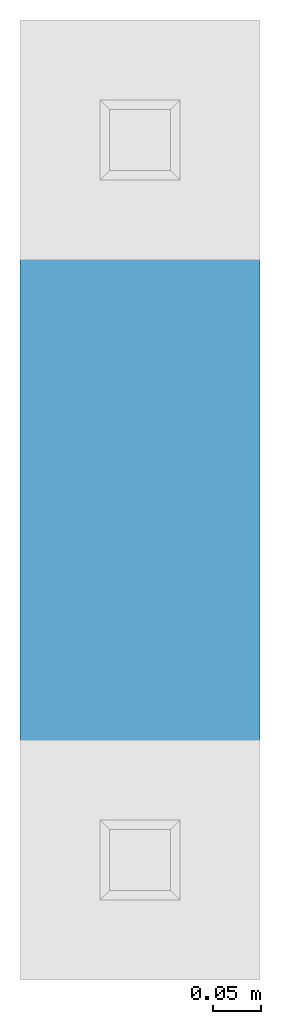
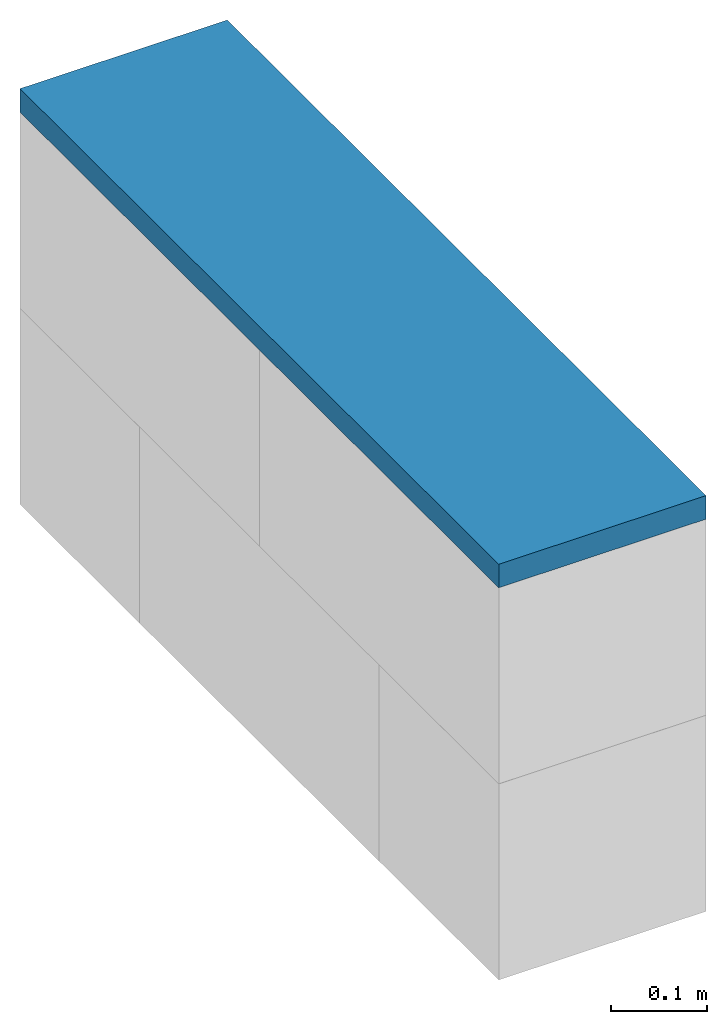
# One storey, incomplete: 1 wall.
"""IFC4 building model written with IfcOpenShell, lengths in centimetres."""

import ifcopenshell
import ifcopenshell.guid

model = None  # the IFC model being written
_history = None  # IfcOwnerHistory: only IFC2X3 demands one
_inside = {}  # id of a spatial element -> (the spatial element, [elements in it])
_under = {}  # id of a project, library or spatial element -> (it, [spatial elements below it])
_declared = {}  # id of a project -> (the project, [libraries it declares])
_typed = {}  # id of a type object -> (the type object, [elements of that type])
_made_of = {}  # id of a material, layer set ... -> (it, [elements and type objects made of it])


def new_model(schema):
    """Start an empty IFC model of exactly this schema.

    Asked for "IFC4X3", IfcOpenShell would pick the latest addendum, in which some entities
    have other attributes; the version numbers below select the first issue.
    IFC2X3 requires an IfcOwnerHistory on every rooted entity: one is made here for all.
    """
    global model, _history
    if schema == "IFC4X3":
        model = ifcopenshell.file(schema_version=(4, 3, 0, 0))
    else:
        model = ifcopenshell.file(schema=schema)
    _inside.clear()
    _under.clear()
    _declared.clear()
    _typed.clear()
    _made_of.clear()
    _history = None
    if model.schema == "IFC2X3":
        org = make("IfcOrganization", Name="unknown")
        user = make(
            "IfcPersonAndOrganization",
            ThePerson=make("IfcPerson", FamilyName="unknown"),
            TheOrganization=org,
        )
        app = make(
            "IfcApplication",
            ApplicationDeveloper=org,
            Version="unknown",
            ApplicationFullName="unknown",
            ApplicationIdentifier="unknown",
        )
        _history = make(
            "IfcOwnerHistory",
            OwningUser=user,
            OwningApplication=app,
            ChangeAction="ADDED",
            CreationDate=0,
        )
    return model


def make(cls, **values):
    """One entity of the class cls with the attributes given. An attribute that is None is left unset."""
    return model.create_entity(
        cls, **{name: value for name, value in values.items() if value is not None}
    )


def entity(cls, *values):
    """Any entity or typed value of the class cls, its attributes in the order of the schema. None: left unset."""
    e = model.create_entity(cls)
    for i, value in enumerate(values):
        if value is not None:
            e[i] = value
    return e


def rooted(cls, **values):
    """An entity with a GlobalId (a new one), such as an element, a storey or a relation."""
    return make(cls, GlobalId=ifcopenshell.guid.new(), OwnerHistory=_history, **values)


def si_unit(unit_type, name, prefix=None):
    """IfcSIUnit, for example si_unit("LENGTHUNIT", "METRE", prefix="MILLI")."""
    return make("IfcSIUnit", UnitType=unit_type, Prefix=prefix, Name=name)


def converted_unit(unit_type, name, factor, base, dimensions=None, offset=None):
    """IfcConversionBasedUnit, such as the inch: factor (a typed value) times the base unit."""
    return make(
        "IfcConversionBasedUnit"
        if offset is None
        else "IfcConversionBasedUnitWithOffset",
        ConversionOffset=offset,
        Dimensions=None
        if dimensions is None
        else entity("IfcDimensionalExponents", *dimensions),
        UnitType=unit_type,
        Name=name,
        ConversionFactor=make(
            "IfcMeasureWithUnit", ValueComponent=factor, UnitComponent=base
        ),
    )


def assignment(units):
    """IfcUnitAssignment: the units of a project."""
    return None if units is None else make("IfcUnitAssignment", Units=units)


def point(xyz):
    """IfcCartesianPoint."""
    return None if xyz is None else make("IfcCartesianPoint", Coordinates=xyz)


def direction(xyz):
    """IfcDirection."""
    return None if xyz is None else make("IfcDirection", DirectionRatios=xyz)


def frame(location, z_axis=None, x_axis=None):
    """IfcAxis2Placement3D, a coordinate frame: its origin and axes. An axis left out is left unset."""
    return make(
        "IfcAxis2Placement3D",
        Location=point(location),
        Axis=direction(z_axis),
        RefDirection=direction(x_axis),
    )


def origin():
    """The frame at (0, 0, 0) with its axes left unset."""
    return frame((0.0, 0.0, 0.0))


def place(relative_to, where):
    """IfcLocalPlacement: puts the frame where relative to a parent placement (None: the world)."""
    return make(
        "IfcLocalPlacement", PlacementRelTo=relative_to, RelativePlacement=where
    )


def context(
    kind, dimensions, precision=None, world=None, true_north=None, identifier=None
):
    """IfcGeometricRepresentationContext, for example the 3D "Model" context."""
    return make(
        "IfcGeometricRepresentationContext",
        ContextIdentifier=identifier,
        ContextType=kind,
        CoordinateSpaceDimension=dimensions,
        Precision=precision,
        WorldCoordinateSystem=world,
        TrueNorth=true_north,
    )


def subcontext(parent, identifier, kind, view, scale=None):
    """IfcGeometricRepresentationSubContext, for example "Body" below "Model"."""
    return make(
        "IfcGeometricRepresentationSubContext",
        ContextIdentifier=identifier,
        ContextType=kind,
        ParentContext=parent,
        TargetScale=scale,
        TargetView=view,
    )


def project(units=None, contexts=None):
    """IfcProject with its units and contexts."""
    return rooted(
        "IfcProject",
        Name="project",
        RepresentationContexts=contexts,
        UnitsInContext=assignment(units),
    )


def spatial(cls, under=None, at=None, **own):
    """A site, building, storey or space (cls), placed at a placement, below another one or the project."""
    s = rooted(cls, ObjectPlacement=at, **own)
    if under is not None:
        _under.setdefault(under.id(), (under, []))[1].append(s)
    return s


def point_list(points):
    """IfcCartesianPointList2D or 3D."""
    cls = (
        "IfcCartesianPointList2D" if len(points[0]) == 2 else "IfcCartesianPointList3D"
    )
    return make(cls, CoordList=points)


def indexed_curve(points, segments=None, self_intersect=None):
    """IfcIndexedPolyCurve: lines and arcs through numbered points (the first is 1)."""
    return make(
        "IfcIndexedPolyCurve",
        Points=point_list(points),
        Segments=segments,
        SelfIntersect=self_intersect,
    )


def outline(outer, holes=None, kind="AREA"):
    """IfcArbitraryClosedProfileDef: a profile drawn as a closed curve; with holes, ...WithVoids."""
    if holes is None:
        return make("IfcArbitraryClosedProfileDef", ProfileType=kind, OuterCurve=outer)
    return make(
        "IfcArbitraryProfileDefWithVoids",
        ProfileType=kind,
        OuterCurve=outer,
        InnerCurves=holes,
    )


def extrude(swept, where, along, depth):
    """IfcExtrudedAreaSolid: the profile swept, set in the frame where, extruded along a direction by depth."""
    return make(
        "IfcExtrudedAreaSolid",
        SweptArea=swept,
        Position=where,
        ExtrudedDirection=direction(along),
        Depth=depth,
    )


def shape(context_of_items, identifier, shape_type, items):
    """IfcShapeRepresentation: the items that make up one representation, for example the "Body"."""
    return make(
        "IfcShapeRepresentation",
        ContextOfItems=context_of_items,
        RepresentationIdentifier=identifier,
        RepresentationType=shape_type,
        Items=items,
    )


def material(Name=None, Category=None):
    """IfcMaterial."""
    return make("IfcMaterial", Name=Name, Category=Category)


def made_of(thing, what):
    """Note that an element or type object is made of a material, layer set ...; save() writes the relation."""
    if what is not None:
        _made_of.setdefault(what.id(), (what, []))[1].append(thing)
    return thing


def type_object(cls, material=None, **own):
    """A type object (cls), such as IfcWallType, which elements share."""
    return made_of(rooted(cls, **own), material)


def element(
    cls,
    number,
    at=None,
    inside=None,
    cuts=None,
    type_object=None,
    material=None,
    context=None,
    identifier="Body",
    shape_type=None,
    held_by="IfcProductDefinitionShape",
    body=None,
    shapes=None,
    **own,
):
    """One element of the class cls, such as IfcWall. Its Tag is "e" and its number.

    at: its placement. inside: the storey or other place that contains it. cuts: it is an
    opening in that element (IfcRelVoidsElement). A single representation is given by context,
    identifier, shape_type and body (its items); several are given by shapes. held_by: the class
    of the entity that holds the representations. save() writes the other relations.
    """
    e = rooted(cls, Tag="e%d" % number, ObjectPlacement=at, **own)
    if body is not None:
        shapes = [shape(context, identifier, shape_type, body)]
    if shapes is not None:
        e.Representation = make(held_by, Representations=shapes)
    if inside is not None:
        _inside.setdefault(inside.id(), (inside, []))[1].append(e)
    if cuts is not None:
        rooted(
            "IfcRelVoidsElement", RelatingBuildingElement=cuts, RelatedOpeningElement=e
        )
    if type_object is not None:
        _typed.setdefault(type_object.id(), (type_object, []))[1].append(e)
    return made_of(e, material)


def aggregate(whole, parts):
    """IfcRelAggregates: a whole, such as a stair, and the parts it consists of."""
    return rooted("IfcRelAggregates", RelatingObject=whole, RelatedObjects=parts)


def save(model, path):
    """Write the relations noted so far, then the file.

    IfcRelAggregates (storeys below a building ...), IfcRelContainedInSpatialStructure (elements
    in a storey), IfcRelDefinesByType, IfcRelAssociatesMaterial and IfcRelDeclares: one each for
    every whole, place, type object, material and project.
    """
    for whole, parts in _under.values():
        aggregate(whole, parts)
    for where, things in _inside.values():
        rooted(
            "IfcRelContainedInSpatialStructure",
            RelatedElements=things,
            RelatingStructure=where,
        )
    for kind, things in _typed.values():
        rooted("IfcRelDefinesByType", RelatedObjects=things, RelatingType=kind)
    for what, things in _made_of.values():
        rooted("IfcRelAssociatesMaterial", RelatedObjects=things, RelatingMaterial=what)
    for by, libraries in _declared.values():
        rooted("IfcRelDeclares", RelatingContext=by, RelatedDefinitions=libraries)
    model.write(path)


model = new_model("IFC4")

# Units and contexts
model_context = context("Model", 3, precision=0.001, world=origin(), true_north=direction((0.0, 1.0)))
body_context = subcontext(model_context, "Body", "Model", "MODEL_VIEW")
ifc_project = project(units=[si_unit("LENGTHUNIT", "METRE", prefix="CENTI"), si_unit("AREAUNIT", "SQUARE_METRE"), si_unit("VOLUMEUNIT", "CUBIC_METRE"), converted_unit("PLANEANGLEUNIT", "DEGREE", entity("IfcPlaneAngleMeasure", 0.017453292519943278), si_unit("PLANEANGLEUNIT", "RADIAN"), dimensions=[0, 0, 0, 0, 0, 0, 0])], contexts=[model_context])

# Site, building, storey
site_placement = place(None, origin())
site = spatial("IfcSite", under=ifc_project, at=site_placement, Name="Default", CompositionType="ELEMENT")
building_placement = place(site_placement, origin())
building = spatial("IfcBuilding", under=site, at=building_placement, CompositionType="ELEMENT")
storey_placement = place(building_placement, frame((0.0, 0.0, -312.0)))
storey = spatial("IfcBuildingStorey", under=building, at=storey_placement, Name="B1__ABOVE Slab", CompositionType="ELEMENT", Elevation=-312.0000000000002)

# Wall
ifc_material = material(Name="_STRUCTURE__Wood Solid")
wall_type = type_object("IfcWallType", Name="Columns : wll_s__DECOUPLING BEAM__Rectangular__wp : Wood", PredefinedType="SOLIDWALL", material=ifc_material)
wall_placement = place(storey_placement, frame((1633.1494566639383, 219.37187315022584, 289.5000000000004), z_axis=(0.0, 0.0, 1.0), x_axis=(0.0, 1.0, 0.0)))
element("IfcWall", 1, at=wall_placement, inside=storey, type_object=wall_type, material=ifc_material, Name="Columns : wll_s__DECOUPLING BEAM__Rectangular__wp : Wood", PredefinedType="SOLIDWALL", context=body_context, shape_type="SweptSolid", body=[
    extrude(outline(indexed_curve([(-50.00000000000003, -12.500000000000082), (50.00000000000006, -12.500000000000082), (50.00000000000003, 12.500000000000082), (-50.00000000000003, 12.499999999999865), (-50.00000000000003, -12.500000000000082)], self_intersect=False)), frame((50.0, -12.500000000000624, 0.0), z_axis=(0.0, 0.0, 1.0), x_axis=(-1.0, 0.0, 0.0)), (0.0, 0.0, 1.0), 2.999999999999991),
])

save(model, "model.ifc")
